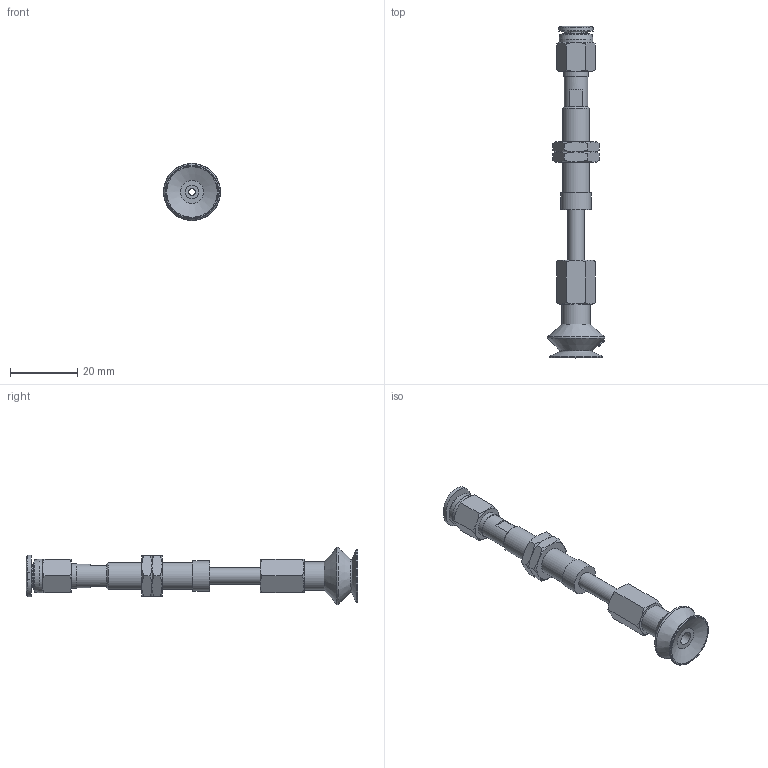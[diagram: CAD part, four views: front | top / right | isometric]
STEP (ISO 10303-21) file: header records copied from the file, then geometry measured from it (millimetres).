
FILE_DESCRIPTION(('STEP AP203'),'1');
FILE_NAME('-O.stp','2025-08-27T01:06:28',(' '),(' '),'Spatial InterOp 3D',' ',' ');
FILE_SCHEMA(('CONFIG_CONTROL_DESIGN'));
Length unit declared in the file: millimetre
Products named in the file (9): BNABPBTS-15A-15-※-O; ADAPTER; NAPATS-10A-15--M; Nut-15A-S-PB; NAPBTS-15A-15--F; BPBG-15A-※; __27; BPBG-15A; PC-C_06-M5
Assembly tree (9 placements, depth 3):
  BNABPBTS-15A-15-※-O
    ADAPTER
    NAPATS-10A-15--M
    Nut-15A-S-PB  x2
    NAPBTS-15A-15--F
    BPBG-15A-※
      __27
      BPBG-15A
    PC-C_06-M5
Bounding box: 17 x 98.48 x 17 mm (x, y, z)
Volume: 5027.9 mm3; surface area: 6528.2 mm2
Topology: 7 solids, 10 shells, 179 faces, 374 edges, 228 vertices
Faces by surface type: cone 66, plane 59, cylinder 26, torus 13, bspline 12, revolution 3
Full cylindrical faces by diameter (mm): 2 x2, 4 x5, 4.134 x1, 5 x3, 6 x2, 7 x2, 7.188 x2, 7.4 x1, 8 x1, 8.2 x1, 8.5 x1, 9 x1, 10 x1, 16 x1
Entity records: 5773 total; most frequent: CARTESIAN_POINT 2432, DIRECTION 590, ORIENTED_EDGE 518, AXIS2_PLACEMENT_3D 270, EDGE_CURVE 261, EDGE_LOOP 233, VERTEX_POINT 186, FACE_OUTER_BOUND 132
